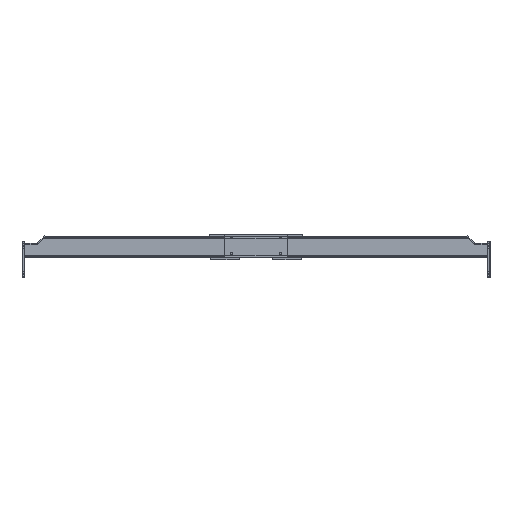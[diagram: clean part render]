
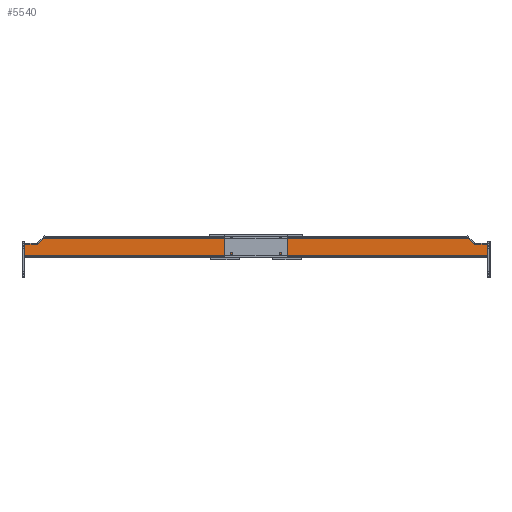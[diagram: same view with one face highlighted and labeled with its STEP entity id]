
A CAD part, left-side view. The second image highlights one B-rep face of the part: STEP entity #5540.
In plain terms, the highlighted planar face has unit normal (-1, 0, 0).
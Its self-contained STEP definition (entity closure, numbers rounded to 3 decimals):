
#446=PLANE('',#6133);
#607=FACE_OUTER_BOUND('',#902,.T.);
#902=EDGE_LOOP('',(#4004,#4005,#4006,#4007,#4008,#4009,#4010,#4011));
#1336=LINE('',#8432,#1830);
#1345=LINE('',#8454,#1839);
#1352=LINE('',#8477,#1846);
#1357=LINE('',#8491,#1851);
#1364=LINE('',#8508,#1858);
#1376=LINE('',#8537,#1870);
#1386=LINE('',#8567,#1880);
#1391=LINE('',#8579,#1885);
#1830=VECTOR('',#6721,10.);
#1839=VECTOR('',#6738,10.);
#1846=VECTOR('',#6755,10.);
#1851=VECTOR('',#6766,10.);
#1858=VECTOR('',#6781,10.);
#1870=VECTOR('',#6811,10.);
#1880=VECTOR('',#6847,10.);
#1885=VECTOR('',#6864,10.);
#2580=VERTEX_POINT('',#8429);
#2581=VERTEX_POINT('',#8431);
#2590=VERTEX_POINT('',#8453);
#2600=VERTEX_POINT('',#8474);
#2601=VERTEX_POINT('',#8476);
#2607=VERTEX_POINT('',#8490);
#2613=VERTEX_POINT('',#8506);
#2628=VERTEX_POINT('',#8565);
#3092=EDGE_CURVE('',#2581,#2580,#1336,.T.);
#3103=EDGE_CURVE('',#2590,#2581,#1345,.T.);
#3114=EDGE_CURVE('',#2601,#2600,#1352,.T.);
#3121=EDGE_CURVE('',#2607,#2601,#1357,.T.);
#3130=EDGE_CURVE('',#2613,#2580,#1364,.T.);
#3146=EDGE_CURVE('',#2590,#2600,#1376,.T.);
#3161=EDGE_CURVE('',#2613,#2628,#1386,.T.);
#3167=EDGE_CURVE('',#2628,#2607,#1391,.T.);
#4004=ORIENTED_EDGE('',*,*,#3092,.T.);
#4005=ORIENTED_EDGE('',*,*,#3130,.F.);
#4006=ORIENTED_EDGE('',*,*,#3161,.T.);
#4007=ORIENTED_EDGE('',*,*,#3167,.T.);
#4008=ORIENTED_EDGE('',*,*,#3121,.T.);
#4009=ORIENTED_EDGE('',*,*,#3114,.T.);
#4010=ORIENTED_EDGE('',*,*,#3146,.F.);
#4011=ORIENTED_EDGE('',*,*,#3103,.T.);
#5540=ADVANCED_FACE('',(#607),#446,.T.);
#6133=AXIS2_PLACEMENT_3D('',#8578,#6862,#6863);
#6721=DIRECTION('',(0.,0.,-1.));
#6738=DIRECTION('',(0.,-0.707,-0.707));
#6755=DIRECTION('',(0.,0.707,-0.707));
#6766=DIRECTION('',(0.,0.,-1.));
#6781=DIRECTION('',(0.,1.,0.));
#6811=DIRECTION('',(0.,0.,1.));
#6847=DIRECTION('',(0.,0.,1.));
#6862=DIRECTION('center_axis',(-1.,0.,0.));
#6863=DIRECTION('ref_axis',(0.,0.,1.));
#6864=DIRECTION('',(0.,1.,0.));
#8429=CARTESIAN_POINT('',(-40.,10.,0.));
#8431=CARTESIAN_POINT('',(-40.,10.,50.));
#8432=CARTESIAN_POINT('',(-40.,10.,0.));
#8453=CARTESIAN_POINT('',(-40.,34.,74.));
#8454=CARTESIAN_POINT('',(-40.,-13.5,26.5));
#8474=CARTESIAN_POINT('',(-40.,34.,1716.));
#8476=CARTESIAN_POINT('',(-40.,10.,1740.));
#8477=CARTESIAN_POINT('',(-40.,449.,1301.));
#8490=CARTESIAN_POINT('',(-40.,10.,1790.));
#8491=CARTESIAN_POINT('',(-40.,10.,870.));
#8506=CARTESIAN_POINT('',(-40.,-34.,0.));
#8508=CARTESIAN_POINT('',(-40.,-17.,0.));
#8537=CARTESIAN_POINT('',(-40.,34.,0.));
#8565=CARTESIAN_POINT('',(-40.,-34.,1790.));
#8567=CARTESIAN_POINT('',(-40.,-34.,0.));
#8578=CARTESIAN_POINT('Origin',(-40.,-34.,0.));
#8579=CARTESIAN_POINT('',(-40.,-17.,1790.));
